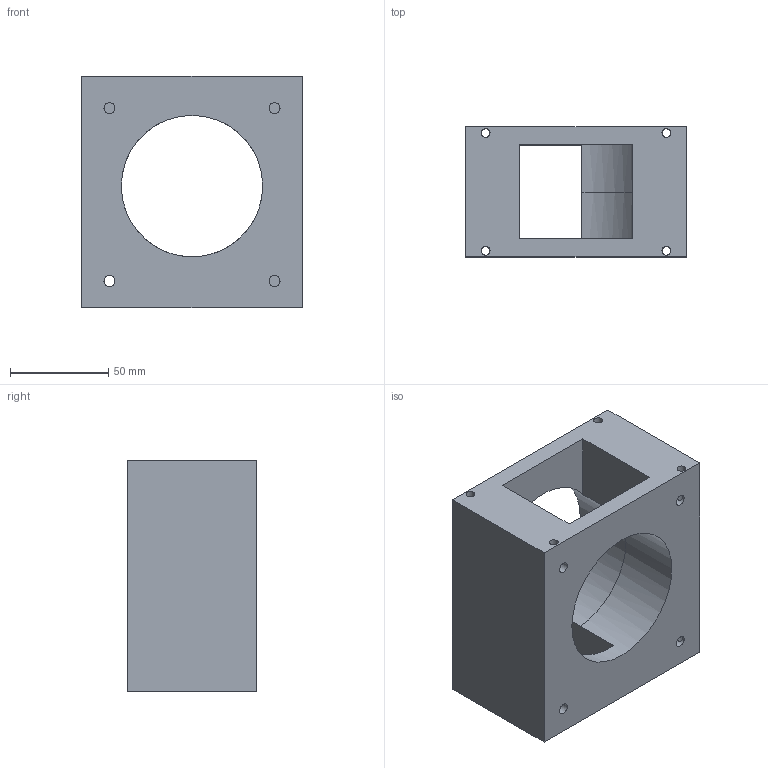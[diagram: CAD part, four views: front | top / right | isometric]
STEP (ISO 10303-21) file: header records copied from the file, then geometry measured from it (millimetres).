
FILE_DESCRIPTION(('Open CASCADE Model'),'2;1');
FILE_NAME('Open CASCADE Shape Model','2026-09-10T23:36:48',('Author'),( 'Open CASCADE'),'Open CASCADE STEP processor 7.9','Open CASCADE 7.9' ,'Unknown');
FILE_SCHEMA(('AUTOMOTIVE_DESIGN { 1 0 10303 214 1 1 1 1 }'));
Length unit declared in the file: millimetre
Products named in the file (1): Open CASCADE STEP translator 7.9 3
Bounding box: 112 x 66 x 118 mm (x, y, z)
Volume: 433998.6 mm3; surface area: 74810.4 mm2
Topology: 1 solids, 1 shells, 35 faces, 112 edges, 75 vertices
Faces by surface type: plane 21, cylinder 14
Full cylindrical faces by diameter (mm): 4.5 x4, 5.6 x8, 72 x2
Entity records: 6516 total; most frequent: CARTESIAN_POINT 4368, DIRECTION 352, ORIENTED_EDGE 224, PCURVE 224, DEFINITIONAL_REPRESENTATION 224, LINE 192, VECTOR 192, EDGE_CURVE 112
